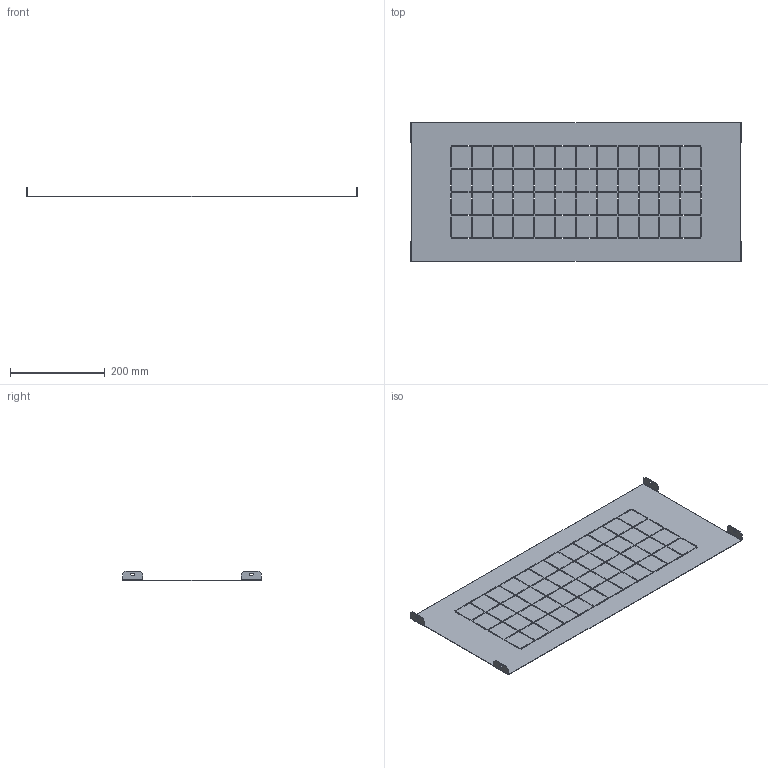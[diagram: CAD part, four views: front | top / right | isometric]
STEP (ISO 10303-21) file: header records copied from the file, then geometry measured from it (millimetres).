
FILE_DESCRIPTION (( 'STEP AP203' ), '1' );
FILE_NAME ('MA1.800.080400.02.01 Ïàíåëü ãîðèçîíòàëüíàÿ äëÿ ñåêöèîíèðîâàíèÿ Ø800 Ã400 ìì.STEP', '2024-12-02T13:56:17', ( '' ), ( '' ), 'SwSTEP 2.0', 'SolidWorks 2021', '' );
FILE_SCHEMA (( 'CONFIG_CONTROL_DESIGN' ));
Length unit declared in the file: millimetre
Products named in the file (1): MA1.800.080400.02.01 Ïàíåëü ãîðèçîíòàëüíàÿ äëÿ ñåêöèîíèðîâàíèÿ Ø800 Ã400 ìì
Bounding box: 698 x 293 x 19.5 mm (x, y, z)
Volume: 196992.7 mm3; surface area: 406179.5 mm2
Topology: 1 solids, 1 shells, 562 faces, 1648 edges, 1088 vertices
Faces by surface type: plane 546, cylinder 16
Entity records: 18885 total; most frequent: CARTESIAN_POINT 3299, ORIENTED_EDGE 3296, DIRECTION 2854, EDGE_CURVE 1648, LINE 1568, VECTOR 1568, VERTEX_POINT 1088, EDGE_LOOP 818
